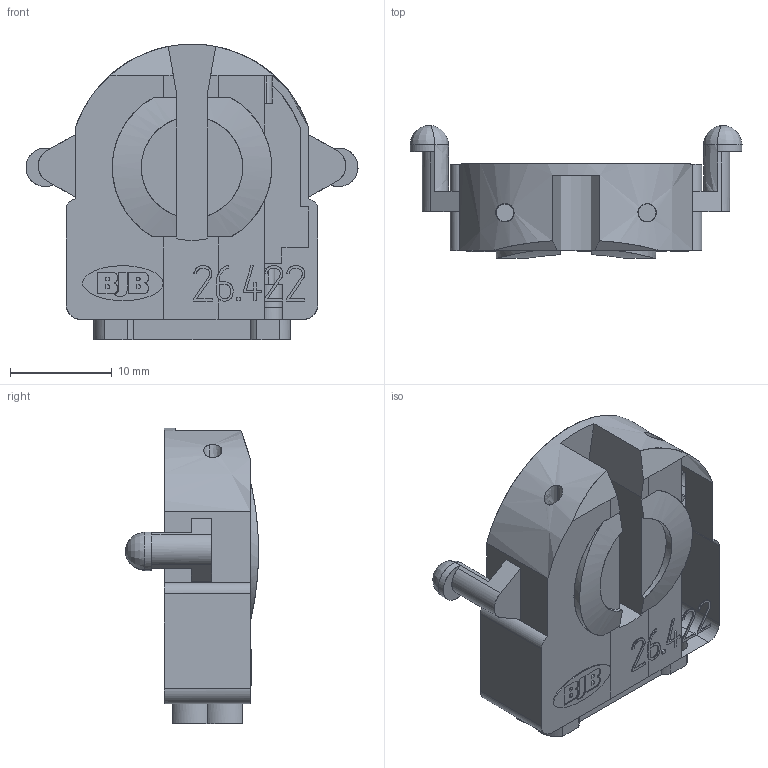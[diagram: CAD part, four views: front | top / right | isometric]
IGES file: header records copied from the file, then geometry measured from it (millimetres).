
Start section: SurfaceModel.B-Splineboundarycurves.
Global section: file name: 00BY21YY04.igs; native system: TRANS-3D by CORETECH International; preprocessor: 2.1; date: 020510.135853; units: millimetre
Bounding box: 32.7 x 13.1 x 29.15 mm (x, y, z)
Surface area: 3024.6 mm2 (no closed solid volume)
Topology: 0 solids, 0 shells, 303 faces, 1846 edges, 1840 vertices
Faces by surface type: bspline 303
